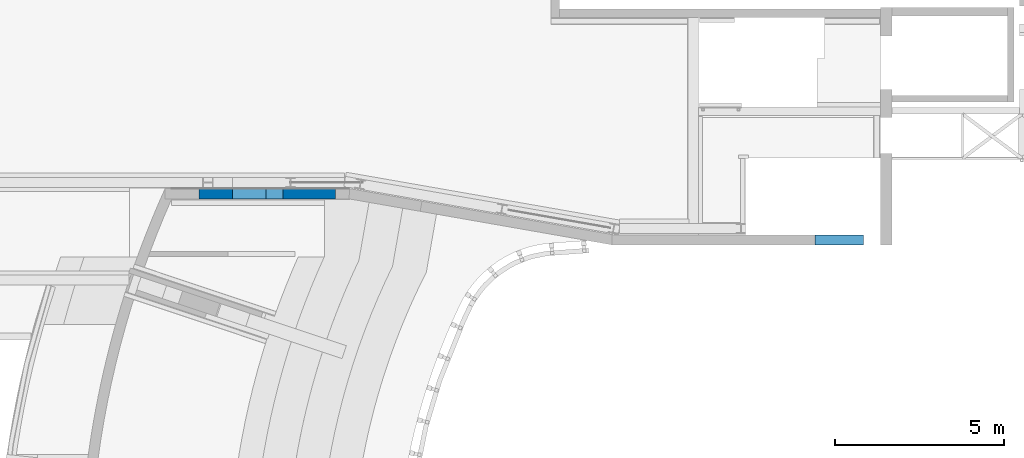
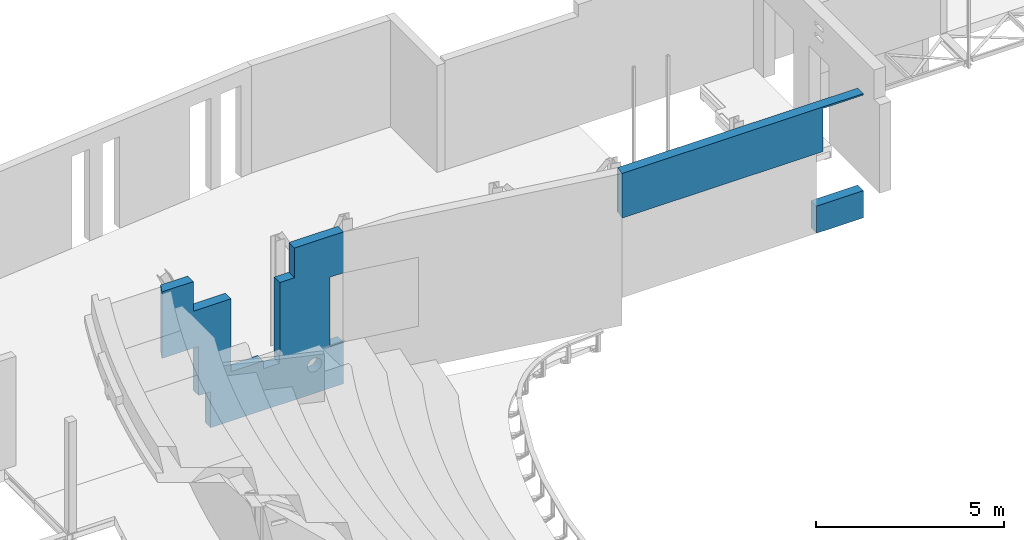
# One storey, part 68 of 68: 2 walls.
"""IFC2X3 building model written with IfcOpenShell, lengths in millimetres."""

from ifc_helpers import new_model, entity, si_unit, converted_unit, derived_unit, direction, frame, origin, place, context, subcontext, project, spatial, faceted_brep, material, layer, layer_set, type_object, element, save


model = new_model("IFC2X3")

# Units and contexts
model_context = context("Model", 3, precision=0.01, world=origin(), true_north=direction((6.12303176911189e-17, 1.0)))
body_context = subcontext(model_context, "Body", "Model", "MODEL_VIEW")
ifc_project = project(units=[si_unit("LENGTHUNIT", "METRE", prefix="MILLI"), si_unit("AREAUNIT", "SQUARE_METRE", prefix="MILLI"), si_unit("VOLUMEUNIT", "CUBIC_METRE"), converted_unit("PLANEANGLEUNIT", "DEGREE", entity("IfcRatioMeasure", 0.0174532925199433), si_unit("PLANEANGLEUNIT", "RADIAN"), dimensions=[0, 0, 0, 0, 0, 0, 0]), si_unit("MASSUNIT", "GRAM", prefix="KILO"), derived_unit("MASSDENSITYUNIT", [(si_unit("MASSUNIT", "GRAM", prefix="KILO"), 1), (si_unit("LENGTHUNIT", "METRE"), -3)]), derived_unit("MOMENTOFINERTIAUNIT", [(si_unit("LENGTHUNIT", "METRE"), 4)]), si_unit("TIMEUNIT", "SECOND"), si_unit("FREQUENCYUNIT", "HERTZ"), si_unit("THERMODYNAMICTEMPERATUREUNIT", "DEGREE_CELSIUS"), derived_unit("THERMALTRANSMITTANCEUNIT", [(si_unit("MASSUNIT", "GRAM", prefix="KILO"), 1), (si_unit("THERMODYNAMICTEMPERATUREUNIT", "KELVIN"), -1), (si_unit("TIMEUNIT", "SECOND"), -3)]), derived_unit("VOLUMETRICFLOWRATEUNIT", [(si_unit("LENGTHUNIT", "METRE"), 3), (si_unit("TIMEUNIT", "SECOND"), -1)]), si_unit("ELECTRICCURRENTUNIT", "AMPERE"), si_unit("ELECTRICVOLTAGEUNIT", "VOLT"), si_unit("POWERUNIT", "WATT"), si_unit("FORCEUNIT", "NEWTON", prefix="KILO"), si_unit("ILLUMINANCEUNIT", "LUX"), si_unit("LUMINOUSFLUXUNIT", "LUMEN"), si_unit("LUMINOUSINTENSITYUNIT", "CANDELA"), derived_unit("USERDEFINED", [(si_unit("MASSUNIT", "GRAM", prefix="KILO"), -1), (si_unit("LENGTHUNIT", "METRE"), -2), (si_unit("TIMEUNIT", "SECOND"), 3), (si_unit("LUMINOUSFLUXUNIT", "LUMEN"), 1)]), derived_unit("LINEARVELOCITYUNIT", [(si_unit("LENGTHUNIT", "METRE"), 1), (si_unit("TIMEUNIT", "SECOND"), -1)]), si_unit("PRESSUREUNIT", "PASCAL"), derived_unit("USERDEFINED", [(si_unit("LENGTHUNIT", "METRE"), -2), (si_unit("MASSUNIT", "GRAM", prefix="KILO"), 1), (si_unit("TIMEUNIT", "SECOND"), -2)]), derived_unit("LINEARFORCEUNIT", [(si_unit("MASSUNIT", "GRAM", prefix="KILO"), 1), (si_unit("LENGTHUNIT", "METRE"), 1), (si_unit("TIMEUNIT", "SECOND"), -2), (si_unit("LENGTHUNIT", "METRE"), -1)]), derived_unit("PLANARFORCEUNIT", [(si_unit("MASSUNIT", "GRAM", prefix="KILO"), 1), (si_unit("LENGTHUNIT", "METRE"), 1), (si_unit("TIMEUNIT", "SECOND"), -2), (si_unit("LENGTHUNIT", "METRE"), -2)])], contexts=[model_context])

# Site, building, storey
site_placement = place(None, origin())
site = spatial("IfcSite", under=ifc_project, at=site_placement, Name="Theater aan de Parade", CompositionType="ELEMENT")
building_placement = place(site_placement, origin())
building = spatial("IfcBuilding", under=site, at=building_placement, Name="Theater aan de Parade", CompositionType="ELEMENT")
storey_placement = place(building_placement, frame((0.0, 0.0, 8750.0)))
storey = spatial("IfcBuildingStorey", under=building, at=storey_placement, Name="02 tweede verdieping", CompositionType="ELEMENT", Elevation=8750.0)

# Walls
ifc_material = material(Name="00_PBT_MAT_beton t.p.g.")
ifc_layer = layer(ifc_material, 300.0)
ifc_layer_set = layer_set([ifc_layer], Name="Basic Wall:28_PBT_WA_beton t.p.g._d=300_bestaand")
wall_type = type_object("IfcWallType", Name="Basic Wall:28_PBT_WA_beton t.p.g._d=300_bestaand", PredefinedType="STANDARD", material=ifc_layer_set)
wall_1_placement = place(storey_placement, frame((46110.9866342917, 44060.0, -1600.0)))
element("IfcWall", 1, at=wall_1_placement, inside=storey, type_object=wall_type, Name="Basic Wall:28_PBT_WA_beton t.p.g._d=300_bestaand", ObjectType="Basic Wall:28_PBT_WA_beton t.p.g._d=300_bestaand", context=body_context, shape_type="Brep", body=[
    faceted_brep([(4517.31784147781, -150.0, 782.832292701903), (3614.01336570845, -150.0, 1350.0), (3114.01336570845, -150.0, 1350.0), (1500.0, -150.0, 0.0), (4552.15301121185, -150.0, 747.997122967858), (4491.10761668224, -150.0, 824.545626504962), (4474.83662694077, -150.0, 871.045443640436), (4469.32076762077, -150.0, 920.000049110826), (4474.83662694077, -150.0, 968.954654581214), (4491.10761668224, -150.0, 1015.45447171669), (4517.31784147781, -150.0, 1057.16780551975), (4552.15301121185, -150.0, 1092.00297525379), (3619.04862424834, -150.0, 1600.0), (4593.86634501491, -150.0, 1118.21320004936), (4640.36616215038, -150.0, 1134.48418979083), (5164.01336570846, -150.0, 1360.0), (4689.32076762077, -150.0, 1140.00004911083), (4738.27537309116, -150.0, 1134.48418979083), (4784.77519022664, -150.0, 1118.21320004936), (4826.4885240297, -150.0, 1092.00297525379), (4861.32369376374, -150.0, 1057.16780551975), (4887.5339185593, -150.0, 1015.45447171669), (4903.80490830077, -150.0, 968.954654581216), (5572.03938731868, -150.0, 826.365430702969), (4909.32076762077, -150.0, 920.000049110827), (4903.80490830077, -150.0, 871.045443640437), (5572.03938731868, -150.0, 680.639823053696), (4887.5339185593, -150.0, 824.545626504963), (4861.32369376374, -150.0, 782.832292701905), (4826.4885240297, -150.0, 747.99712296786), (5559.01336570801, -150.0, 0.0), (4784.77519022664, -150.0, 721.786898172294), (4738.27537309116, -150.0, 705.515908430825), (4689.32076762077, -150.0, 700.000049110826), (4640.36616215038, -150.0, 705.515908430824), (4593.86634501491, -150.0, 721.786898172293), (5572.03938731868, -150.0, 0.0), (5559.01336570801, -150.0, 1360.0), (5572.03938731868, -150.0, 1360.0), (5164.01336570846, -150.0, 3600.0), (4069.04862424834, -150.0, 3967.0), (5572.03938731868, -150.0, 4530.0), (5559.01336570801, -150.0, 3600.0), (5572.03938731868, -150.0, 3600.0), (4069.04862424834, -150.0, 4930.0), (5572.03938731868, -150.0, 4730.0), (5559.01336570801, -150.0, 4930.0), (5572.03938731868, -150.0, 4930.0), (3619.04862424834, -150.0, 3967.0), (3614.01336570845, -150.0, 1600.0), (2119.04862424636, -150.0, 1600.0), (3114.01336570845, -150.0, 1600.0), (1500.0, -150.0, 1170.0), (1130.52768463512, -150.0, 2770.0), (2119.04862424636, -150.0, 3967.0), (969.048624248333, -150.0, 3967.0), (135.527684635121, -150.0, 2770.0), (0.0, -150.0, 4000.0), (0.0, -150.0, 4070.0), (0.0, -150.0, 4260.0), (969.048624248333, -150.0, 4930.0), (0.0, -150.0, 4860.0), (0.0, -150.0, 4930.0), (0.0, -150.0, 2770.0), (1130.52768463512, -150.0, 1170.0), (4861.32369376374, 150.0, 782.832292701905), (5572.03938731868, 150.0, 680.6398230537), (4826.48852402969, 150.0, 747.99712296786), (4887.5339185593, 150.0, 824.545626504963), (4903.80490830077, 150.0, 871.045443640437), (5572.03938731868, 150.0, 856.759971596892), (4909.32076762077, 150.0, 920.000049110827), (4903.80490830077, 150.0, 968.954654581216), (5164.01336570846, 150.0, 1360.0), (4887.5339185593, 150.0, 1015.45447171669), (4861.32369376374, 150.0, 1057.16780551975), (4826.48852402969, 150.0, 1092.00297525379), (4784.77519022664, 150.0, 1118.21320004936), (4738.27537309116, 150.0, 1134.48418979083), (4689.32076762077, 150.0, 1140.00004911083), (4640.36616215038, 150.0, 1134.48418979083), (3619.04862424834, 150.0, 1600.0), (4593.86634501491, 150.0, 1118.21320004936), (4552.15301121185, 150.0, 1092.00297525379), (3614.01336570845, 150.0, 1350.0), (4517.31784147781, 150.0, 1057.16780551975), (4491.10761668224, 150.0, 1015.45447171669), (4474.83662694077, 150.0, 968.954654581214), (4469.32076762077, 150.0, 920.000049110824), (4474.83662694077, 150.0, 871.045443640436), (4491.10761668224, 150.0, 824.545626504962), (4517.31784147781, 150.0, 782.832292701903), (3114.01336570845, 150.0, 1350.0), (1500.0, 150.0, 0.0), (4552.15301121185, 150.0, 747.997122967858), (4593.86634501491, 150.0, 721.786898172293), (5572.03938731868, 150.0, 0.0), (4640.36616215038, 150.0, 705.515908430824), (4689.32076762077, 150.0, 700.000049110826), (4738.27537309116, 150.0, 705.515908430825), (4784.77519022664, 150.0, 721.786898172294), (2119.04862424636, 150.0, 1600.0), (1500.0, 150.0, 1170.0), (1130.52768463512, 150.0, 2770.0), (1130.52768463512, 150.0, 1170.0), (2119.04862424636, 150.0, 3967.0), (969.048624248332, 150.0, 3967.0), (135.52768463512, 150.0, 2770.0), (133.539124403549, 150.0, 4070.0), (133.539124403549, 150.0, 2770.0), (133.539124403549, 150.0, 4260.0), (969.048624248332, 150.0, 4530.0), (133.539124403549, 150.0, 4860.0), (969.048624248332, 150.0, 4740.0), (887.879571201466, 150.0, 4930.0), (133.539124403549, 150.0, 4930.0), (969.048624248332, 150.0, 4930.0), (3114.01336570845, 150.0, 1600.0), (3614.01336570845, 150.0, 1600.0), (5164.01336570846, 150.0, 3600.0), (4069.04862424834, 150.0, 3967.0), (3619.04862424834, 150.0, 3967.0), (4069.04862424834, 150.0, 4530.0), (5572.03938731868, 150.0, 4530.0), (4069.04862424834, 150.0, 4730.0), (5572.03938731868, 150.0, 4730.0), (4069.04862424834, 150.0, 4930.0), (5572.03938731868, 150.0, 4930.0), (5572.03938731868, 150.0, 3600.0), (5572.03938731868, 150.0, 1360.0), (66.3382378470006, 0.191995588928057, 4930.0), (66.3382378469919, 0.191995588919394, 2770.0), (72.3801819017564, 13.7559247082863, 3850.0)], [[[0, 1, 2]], [[2, 3, 0]], [[4, 0, 3]], [[5, 1, 0]], [[5, 6, 1]], [[1, 6, 7]], [[1, 7, 8]], [[8, 9, 1]], [[9, 10, 1]], [[10, 11, 1]], [[11, 12, 1]], [[13, 12, 11]], [[14, 12, 13]], [[15, 12, 14]], [[14, 16, 15]], [[17, 15, 16]], [[15, 17, 18]], [[18, 19, 15]], [[19, 20, 15]], [[21, 15, 20]], [[21, 22, 15]], [[15, 22, 23]], [[24, 23, 22]], [[23, 24, 25]], [[25, 26, 23]], [[27, 26, 25]], [[28, 26, 27]], [[29, 26, 28]], [[26, 29, 30]], [[31, 30, 29]], [[31, 32, 30]], [[33, 30, 32]], [[33, 34, 30]], [[34, 35, 30]], [[3, 35, 4]], [[35, 3, 30]], [[36, 26, 30]], [[23, 37, 15]], [[23, 38, 37]], [[12, 15, 39]], [[40, 12, 39]], [[40, 39, 41]], [[39, 42, 41]], [[41, 42, 43]], [[41, 44, 40]], [[45, 44, 41]], [[44, 45, 46]], [[45, 47, 46]], [[12, 40, 48]], [[1, 12, 49]], [[50, 3, 2]], [[51, 50, 2]], [[52, 3, 50]], [[50, 53, 52]], [[54, 53, 50]], [[53, 54, 55]], [[53, 55, 56]], [[57, 56, 55]], [[57, 55, 58]], [[58, 55, 59]], [[55, 60, 59]], [[59, 60, 61]], [[62, 61, 60]], [[63, 56, 57]], [[53, 64, 52]], [[65, 66, 67]], [[65, 68, 66]], [[66, 68, 69]], [[70, 66, 69]], [[71, 70, 69]], [[70, 71, 72]], [[70, 72, 73]], [[72, 74, 73]], [[75, 73, 74]], [[75, 76, 73]], [[76, 77, 73]], [[77, 78, 73]], [[78, 79, 73]], [[79, 80, 73]], [[81, 73, 80]], [[80, 82, 81]], [[81, 82, 83]], [[81, 83, 84]], [[83, 85, 84]], [[85, 86, 84]], [[86, 87, 84]], [[87, 88, 84]], [[89, 84, 88]], [[89, 90, 84]], [[91, 84, 90]], [[91, 92, 84]], [[91, 93, 92]], [[91, 94, 93]], [[94, 95, 93]], [[95, 96, 93]], [[97, 96, 95]], [[97, 98, 96]], [[99, 96, 98]], [[99, 100, 96]], [[100, 67, 96]], [[66, 96, 67]], [[93, 101, 92]], [[102, 101, 93]], [[103, 101, 102]], [[103, 102, 104]], [[101, 103, 105]], [[105, 103, 106]], [[106, 103, 107]], [[108, 106, 107]], [[107, 109, 108]], [[110, 106, 108]], [[106, 110, 111]], [[110, 112, 111]], [[111, 112, 113]], [[112, 114, 113]], [[114, 112, 115]], [[116, 113, 114]], [[92, 101, 117]], [[81, 84, 118]], [[81, 119, 73]], [[81, 120, 119]], [[120, 81, 121]], [[122, 119, 120]], [[122, 123, 119]], [[123, 122, 124]], [[124, 125, 123]], [[126, 125, 124]], [[127, 125, 126]], [[123, 128, 119]], [[73, 129, 70]], [[30, 3, 93, 96, 36]], [[46, 47, 127, 126, 44]], [[62, 60, 116, 114, 115, 130]], [[2, 1, 84, 92]], [[51, 2, 92, 117]], [[1, 49, 118, 84]], [[26, 36, 96, 66, 70, 129, 38, 23]], [[41, 43, 128, 123, 125, 127, 47, 45]], [[37, 38, 129, 73, 15]], [[39, 15, 73, 119]], [[42, 39, 119, 128, 43]], [[50, 51, 117, 101]], [[49, 12, 81, 118]], [[54, 50, 101, 105]], [[52, 64, 104, 102]], [[3, 52, 102, 93]], [[56, 63, 131, 109, 107, 103, 53]], [[64, 53, 103, 104]], [[110, 108, 109, 132]], [[130, 110, 132]], [[115, 112, 110, 130]], [[109, 131, 132]], [[63, 57, 58, 59, 132]], [[62, 130, 59, 61]], [[132, 131, 63]], [[130, 132, 59]], [[40, 44, 126, 124, 122, 120]], [[48, 40, 120, 121]], [[55, 54, 105, 106]], [[60, 55, 106, 111, 113, 116]], [[12, 48, 121, 81]], [[27, 25, 69, 68]], [[27, 68, 65, 28]], [[100, 99, 32, 31]], [[31, 29, 67, 100]], [[29, 28, 65, 67]], [[33, 32, 99, 98]], [[71, 69, 25, 24]], [[35, 34, 97, 95]], [[35, 95, 94, 4]], [[90, 89, 6, 5]], [[5, 0, 91, 90]], [[0, 4, 94, 91]], [[7, 6, 89, 88]], [[97, 34, 33, 98]], [[87, 8, 7, 88]], [[82, 80, 14, 13]], [[13, 11, 83, 82]], [[85, 83, 11, 10]], [[16, 14, 80, 79]], [[85, 10, 9, 86]], [[87, 86, 9, 8]], [[18, 17, 78, 77]], [[18, 77, 76, 19]], [[74, 72, 22, 21]], [[21, 20, 75, 74]], [[20, 19, 76, 75]], [[24, 22, 72, 71]], [[78, 17, 16, 79]]]),
])
wall_2_placement = place(storey_placement, frame((59454.4545930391, 42700.0, -700.0)))
element("IfcWall", 2, at=wall_2_placement, inside=storey, type_object=wall_type, Name="Basic Wall:28_PBT_WA_beton t.p.g._d=300_bestaand", ObjectType="Basic Wall:28_PBT_WA_beton t.p.g._d=300_bestaand", context=body_context, shape_type="Brep", body=[
    faceted_brep([(0.0, -150.0, 2580.0), (6155.54540696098, -150.0, 2580.0), (6155.54540696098, -150.0, 3980.0), (7401.80150792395, -150.0, 3980.0), (7401.80150792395, -150.0, 4030.0), (0.0, -150.0, 4030.0), (7401.80150792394, 150.0, 3980.0), (6155.54540696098, 150.0, 3980.0), (6155.54540696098, 150.0, 2580.0), (13.0260216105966, 150.0, 2580.0), (13.0260216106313, 150.0, 4030.0), (7401.80150792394, 150.0, 4030.0), (38.6880779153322, 145.509140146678, 2580.0), (38.6880779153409, 145.509140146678, 4030.0), (0.0, -75.5655907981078, 2580.0), (0.0, -75.5655907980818, 4030.0)], [[[0, 1, 2, 3, 4, 5]], [[6, 7, 8, 9, 10, 11]], [[12, 13, 10, 9]], [[13, 12, 14, 15]], [[1, 0, 14, 12, 9, 8]], [[3, 2, 7, 6]], [[4, 3, 6, 11]], [[5, 4, 11, 10, 13, 15]], [[0, 5, 15, 14]], [[7, 2, 1, 8]]]),
    faceted_brep([(5965.54540696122, -150.0, 0.0), (5965.54540696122, -150.0, 880.0), (5965.54540696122, 150.0, 880.0), (5965.54540696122, 150.0, 0.0), (7401.80150792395, -150.0, 0.0), (7401.80150792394, 150.0, 0.0), (7401.80150792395, -150.0, 880.0), (7401.80150792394, 150.0, 880.0)], [[[0, 1, 2, 3]], [[4, 0, 3, 5]], [[6, 4, 5, 7]], [[1, 6, 7, 2]], [[3, 2, 7, 5]], [[1, 0, 4, 6]]]),
])

save(model, "model.ifc")
